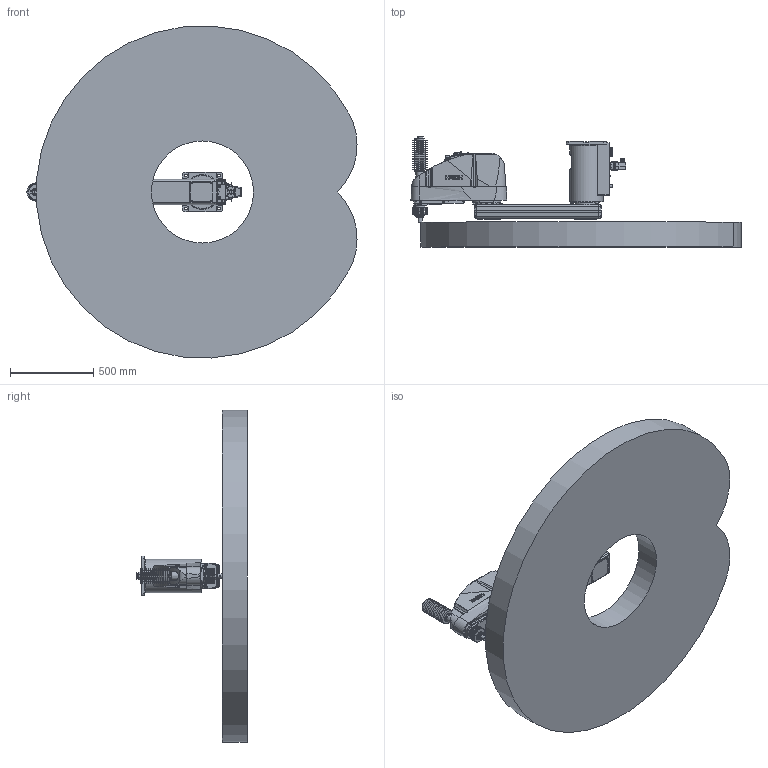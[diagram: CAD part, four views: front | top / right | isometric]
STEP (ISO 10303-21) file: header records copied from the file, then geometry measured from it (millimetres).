
FILE_DESCRIPTION( ( 'STEP AP214' ), '1' );
FILE_NAME( 'C:/Users/9607552/Desktop/GX20-BA01CR_langle.stp', '2023-08-01T09:45:39', ( '' ), ( '' ), ' ', 'PARTsolutions', ' ' );
FILE_SCHEMA( ( 'AUTOMOTIVE_DESIGN { 1 0 10303 214 1 1 1 1 }' ) );
Length unit declared in the file: millimetre
Products named in the file (7): GX20-BA01CRA-W; _Base cr; _Angle-B; _J1 Arm GX10-600 r/w; _J2 Arm GX10-c; _J3 Arm GX10-c (1); _GX10_20B-37_1
Assembly tree (6 placements, depth 2):
  GX20-BA01CRA-W
    _Base cr
    _Angle-B
    _J1 Arm GX10-600 r/w
    _J2 Arm GX10-c
    _J3 Arm GX10-c (1)
    _GX10_20B-37_1
Bounding box: 1985.19 x 665 x 1996.91 mm (x, y, z)
Volume: 461803933.5 mm3; surface area: 8596378.1 mm2
Topology: 6 solids, 6 shells, 2475 faces, 6093 edges, 3964 vertices
Faces by surface type: plane 1315, cylinder 737, cone 318, torus 67, bspline 37, sphere 1
Full cylindrical faces by diameter (mm): 1.18 x55, 2.5 x2, 3 x32, 3.242 x10, 3.3 x9, 4 x2, 4.2 x2, 4.8 x4, 5.1 x4, 5.34 x4, 5.5 x12, 6 x3, 6.2 x2, 6.647 x2, 7 x27, 7.5 x1, 8 x4, 8.5 x2, 9 x4, 10 x32, 10.5 x4, 11 x14, 12 x7, 12.25 x1, 13 x2, 14 x8, 14.25 x1, 16 x7, 18 x2, 20.4 x1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
Entity records: 93544 total; most frequent: CARTESIAN_POINT 17497, DIRECTION 11659, ORIENTED_EDGE 10724, EDGE_CURVE 5362, AXIS2_PLACEMENT_3D 4402, VERTEX_POINT 3859, EDGE_LOOP 3466, LINE 2855
